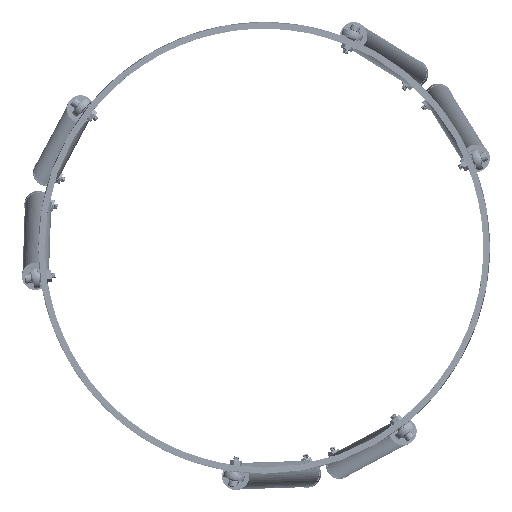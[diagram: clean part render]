
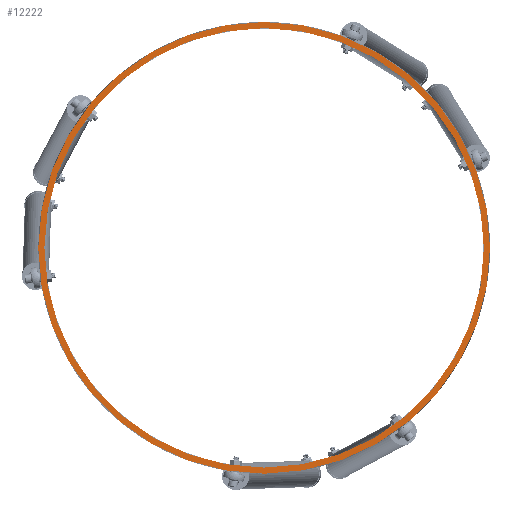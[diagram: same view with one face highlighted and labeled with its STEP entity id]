
A CAD part, front view. The second image highlights one B-rep face of the part: STEP entity #12222.
In plain terms, the highlighted planar face has unit normal (0, -1, 0).
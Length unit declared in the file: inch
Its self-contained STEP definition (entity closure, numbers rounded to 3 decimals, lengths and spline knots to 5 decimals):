
#345 = CIRCLE ( 'NONE', #10008, 9.25 ) ;
#786 = EDGE_LOOP ( 'NONE', ( #20243, #1235 ) ) ;
#1235 = ORIENTED_EDGE ( 'NONE', *, *, #12889, .T. ) ;
#1267 = DIRECTION ( 'NONE',  ( 0., 0., 1. ) ) ;
#1961 = CARTESIAN_POINT ( 'NONE',  ( 0., -1.5, 9. ) ) ;
#1998 = EDGE_LOOP ( 'NONE', ( #30517, #31178 ) ) ;
#3351 = EDGE_CURVE ( 'NONE', #12691, #9485, #345, .T. ) ;
#3892 = CARTESIAN_POINT ( 'NONE',  ( 0., -1.5, 9.25 ) ) ;
#4235 = DIRECTION ( 'NONE',  ( 0., 1., 0. ) ) ;
#6233 = FACE_OUTER_BOUND ( 'NONE', #1998, .T. ) ;
#7029 = CARTESIAN_POINT ( 'NONE',  ( 0., -1.5, 0. ) ) ;
#7299 = AXIS2_PLACEMENT_3D ( 'NONE', #28584, #4235, #21284 ) ;
#8318 = CIRCLE ( 'NONE', #19060, 9. ) ;
#9252 = VERTEX_POINT ( 'NONE', #1961 ) ;
#9485 = VERTEX_POINT ( 'NONE', #26770 ) ;
#9527 = DIRECTION ( 'NONE',  ( 0., 0., 1. ) ) ;
#10008 = AXIS2_PLACEMENT_3D ( 'NONE', #30539, #15906, #1267 ) ;
#10011 = DIRECTION ( 'NONE',  ( 0., 1., 0. ) ) ;
#12222 = ADVANCED_FACE ( 'NONE', ( #6233, #19971 ), #18811, .F. ) ;
#12354 = CIRCLE ( 'NONE', #23079, 9. ) ;
#12691 = VERTEX_POINT ( 'NONE', #3892 ) ;
#12715 = DIRECTION ( 'NONE',  ( 0., 1., 0. ) ) ;
#12889 = EDGE_CURVE ( 'NONE', #9252, #15950, #12354, .T. ) ;
#13064 = EDGE_CURVE ( 'NONE', #9485, #12691, #19941, .T. ) ;
#15906 = DIRECTION ( 'NONE',  ( 0., 1., 0. ) ) ;
#15950 = VERTEX_POINT ( 'NONE', #22735 ) ;
#18811 = PLANE ( 'NONE',  #7299 ) ;
#19060 = AXIS2_PLACEMENT_3D ( 'NONE', #24619, #10011, #27111 ) ;
#19139 = AXIS2_PLACEMENT_3D ( 'NONE', #27361, #12715, #29817 ) ;
#19941 = CIRCLE ( 'NONE', #19139, 9.25 ) ;
#19971 = FACE_BOUND ( 'NONE', #786, .T. ) ;
#20243 = ORIENTED_EDGE ( 'NONE', *, *, #21437, .T. ) ;
#21284 = DIRECTION ( 'NONE',  ( 0., 0., 1. ) ) ;
#21437 = EDGE_CURVE ( 'NONE', #15950, #9252, #8318, .T. ) ;
#22735 = CARTESIAN_POINT ( 'NONE',  ( 0., -1.5, -9. ) ) ;
#23079 = AXIS2_PLACEMENT_3D ( 'NONE', #7029, #24134, #9527 ) ;
#24134 = DIRECTION ( 'NONE',  ( 0., 1., 0. ) ) ;
#24619 = CARTESIAN_POINT ( 'NONE',  ( 0., -1.5, 0. ) ) ;
#26770 = CARTESIAN_POINT ( 'NONE',  ( 0., -1.5, -9.25 ) ) ;
#27111 = DIRECTION ( 'NONE',  ( 0., 0., 1. ) ) ;
#27361 = CARTESIAN_POINT ( 'NONE',  ( 0., -1.5, 0. ) ) ;
#28584 = CARTESIAN_POINT ( 'NONE',  ( 0., -1.5, 0. ) ) ;
#29817 = DIRECTION ( 'NONE',  ( 0., 0., 1. ) ) ;
#30517 = ORIENTED_EDGE ( 'NONE', *, *, #13064, .F. ) ;
#30539 = CARTESIAN_POINT ( 'NONE',  ( 0., -1.5, 0. ) ) ;
#31178 = ORIENTED_EDGE ( 'NONE', *, *, #3351, .F. ) ;
